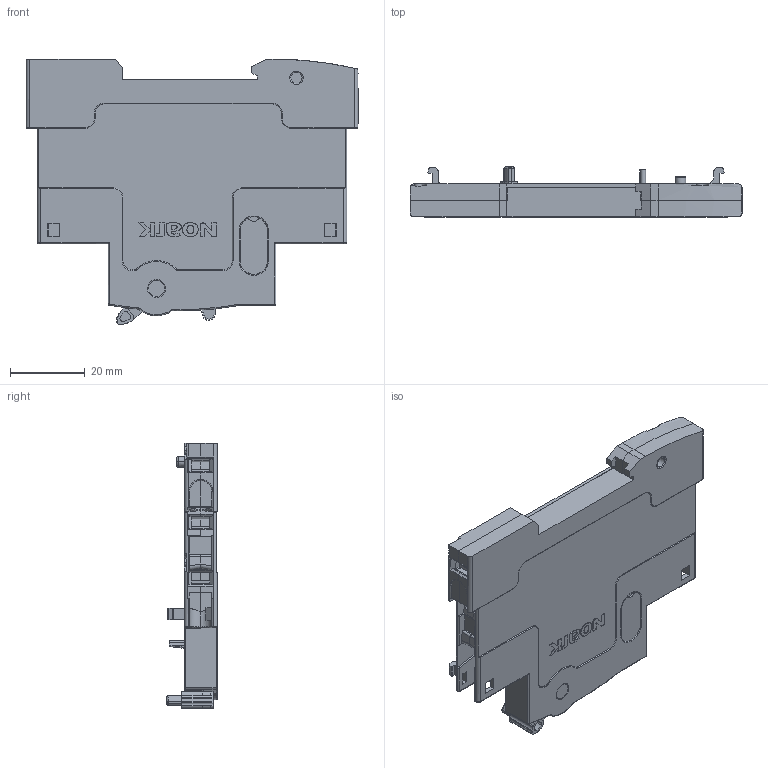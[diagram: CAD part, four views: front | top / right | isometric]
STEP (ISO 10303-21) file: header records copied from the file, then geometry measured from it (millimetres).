
FILE_DESCRIPTION((''),'2;1');
FILE_NAME('AX-B8R22','2025-04-28T12:43:49',('dyliuk3'),(''),'CREO PARAMETRIC BY PTC INC, 2020044','CREO PARAMETRIC BY PTC INC, 2020044','');
FILE_SCHEMA(('CONFIG_CONTROL_DESIGN','SHAPE_APPEARANCE_LAYERS_GROUPS'));
Products named in the file (1): AX-B8R22
Bounding box: 89 x 13.5 x 71.22 mm (x, y, z)
Volume: 1889.7 mm3; surface area: 37785.4 mm2
Topology: 12 solids, 31 shells, 3801 faces, 10633 edges, 6967 vertices
Faces by surface type: plane 2693, cylinder 857, torus 88, cone 62, sphere 52, extrusion 44, bspline 5
Entity records: 155873 total; most frequent: CARTESIAN_POINT 24313, ORIENTED_EDGE 21078, DIRECTION 19747, EDGE_CURVE 10585, PRESENTATION_STYLE_ASSIGNMENT 9682, STYLED_ITEM 9423, CURVE_STYLE 8742, VECTOR 7891
